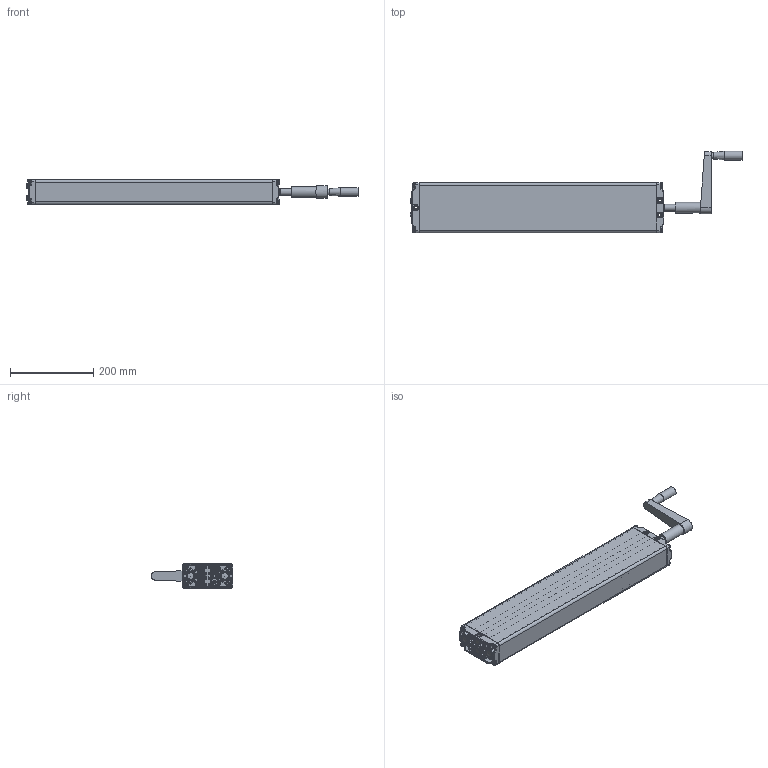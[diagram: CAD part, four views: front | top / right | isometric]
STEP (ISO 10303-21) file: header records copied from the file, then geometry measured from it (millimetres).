
FILE_DESCRIPTION(/* description */ ('Unknown'),/* implementation_level */ '2;1');
FILE_NAME(/* name */ '312.20080 Pumpe PB 3670 W mit Handkurbel',/* time_stamp */ '2016-10-07T16:41:26+02:00',/* author */ ('Unknown'),/* organization */ ('Unknown'),/* preprocessor_version */ 'ST-DEVELOPER v16.7',/* originating_system */ 'DEX',/* authorisation */ $);
FILE_SCHEMA (('AUTOMOTIVE_DESIGN {1 0 10303 214 3 1 1}'));
Products named in the file (22): 102.20080; 115.00044; 125.00046; 142.00021; 125.00021; 115.00003; 113.00005; 128.00001; 125.00052; 126.00013; 125.00053; 127.00014; Handgriff; 142.00013; 125.00144; 115.00140; 126.00006; 122.00040; 119.00044; 126.00005; 142.00057; 142.00110
Assembly tree (32 placements, depth 3):
  102.20080
    115.00044  x3
      125.00046
      142.00021
      125.00021
      115.00003
    113.00005
      128.00001
      125.00052
      126.00013
      125.00053
      127.00014
      Handgriff
    142.00013  x8
    125.00046
    125.00144
    115.00140
      126.00006
      122.00040
    119.00044
    126.00005
    142.00057
    142.00110  x2
Bounding box: 797.72 x 195.5 x 60.3 mm (x, y, z)
Volume: 909088.8 mm3; surface area: 568745 mm2
Topology: 32 solids, 32 shells, 2571 faces, 6071 edges, 3497 vertices
Faces by surface type: plane 708, bspline 707, cylinder 578, cone 348, torus 171, sphere 59
Full cylindrical faces by diameter (mm): 3.5 x4, 4 x2, 4.1 x3, 4.2 x5, 4.917 x2, 5 x8, 6.917 x8, 8 x8, 9.8 x8, 10 x4, 10.4 x1, 12.8 x1, 13 x1, 14 x1, 15.8 x2, 16 x2, 17 x1, 17.3 x4, 18 x3, 19 x1, 20.6 x1, 21 x1, 21.2 x2, 22 x1, 22.4 x4, 25.5 x1, 25.9 x8
Entity records: 101371 total; most frequent: CARTESIAN_POINT 55714, ORIENTED_EDGE 8538, DIRECTION 6965, EDGE_CURVE 4269, AXIS2_PLACEMENT_3D 2803, VERTEX_POINT 2631, FACE_BOUND 2120, EDGE_LOOP 2117
